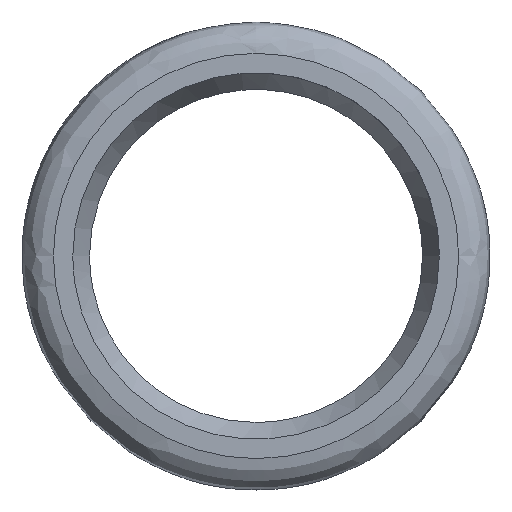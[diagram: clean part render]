
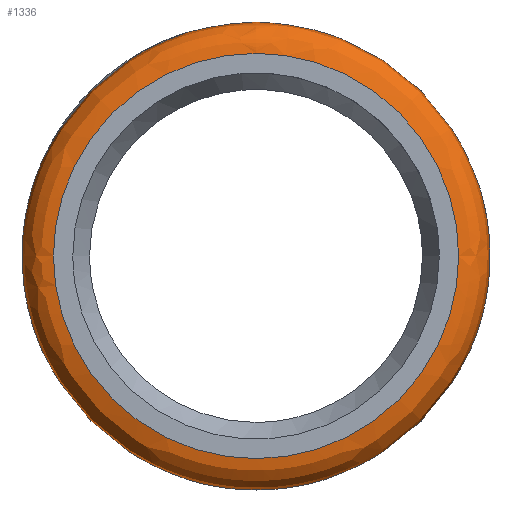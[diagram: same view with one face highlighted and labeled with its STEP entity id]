
A CAD part, left-side view. The second image highlights one B-rep face of the part: STEP entity #1336.
In plain terms, the highlighted free-form (B-spline) face has degree [2, 2] with [5, 9] control points.
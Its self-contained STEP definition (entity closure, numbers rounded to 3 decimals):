
#1290 = EDGE_CURVE('',#1291,#1293,#1295,.T.);
#1291 = VERTEX_POINT('',#1292);
#1292 = CARTESIAN_POINT('',(0.,19.35,0.));
#1293 = VERTEX_POINT('',#1294);
#1294 = CARTESIAN_POINT('',(0.,0.,19.35));
#1295 = ( BOUNDED_CURVE() B_SPLINE_CURVE(2,(#1296,#1297,#1298),
.UNSPECIFIED.,.F.,.F.) B_SPLINE_CURVE_WITH_KNOTS((3,3),(0.,
1.571),.PIECEWISE_BEZIER_KNOTS.) CURVE() 
GEOMETRIC_REPRESENTATION_ITEM() RATIONAL_B_SPLINE_CURVE((1.,
0.707,1.)) REPRESENTATION_ITEM('') );
#1296 = CARTESIAN_POINT('',(0.,19.35,0.));
#1297 = CARTESIAN_POINT('',(0.,19.35,19.35));
#1298 = CARTESIAN_POINT('',(0.,0.,19.35));
#1300 = EDGE_CURVE('',#1293,#1291,#1301,.T.);
#1301 = ( BOUNDED_CURVE() B_SPLINE_CURVE(2,(#1302,#1303,#1304,#1305,
#1306,#1307,#1308),.UNSPECIFIED.,.F.,.F.) B_SPLINE_CURVE_WITH_KNOTS((3,2
    ,2,3),(1.571,3.142,4.712,6.283),
.UNSPECIFIED.) CURVE() GEOMETRIC_REPRESENTATION_ITEM() 
RATIONAL_B_SPLINE_CURVE((1.,0.707,1.,0.707,1.,
0.707,1.)) REPRESENTATION_ITEM('') );
#1302 = CARTESIAN_POINT('',(0.,0.,19.35));
#1303 = CARTESIAN_POINT('',(0.,-19.35,19.35));
#1304 = CARTESIAN_POINT('',(0.,-19.35,0.));
#1305 = CARTESIAN_POINT('',(0.,-19.35,-19.35));
#1306 = CARTESIAN_POINT('',(0.,0.,-19.35));
#1307 = CARTESIAN_POINT('',(0.,19.35,-19.35));
#1308 = CARTESIAN_POINT('',(0.,19.35,0.));
#1336 = ADVANCED_FACE('',(#1337),#1376,.T.);
#1337 = FACE_BOUND('',#1338,.T.);
#1338 = EDGE_LOOP('',(#1339,#1349,#1359,#1365,#1373,#1374,#1375));
#1339 = ORIENTED_EDGE('',*,*,#1340,.F.);
#1340 = EDGE_CURVE('',#1341,#1343,#1345,.T.);
#1341 = VERTEX_POINT('',#1342);
#1342 = CARTESIAN_POINT('',(5.121,21.471,0.));
#1343 = VERTEX_POINT('',#1344);
#1344 = CARTESIAN_POINT('',(5.121,0.,21.471));
#1345 = ( BOUNDED_CURVE() B_SPLINE_CURVE(2,(#1346,#1347,#1348),
.UNSPECIFIED.,.F.,.F.) B_SPLINE_CURVE_WITH_KNOTS((3,3),(0.,
1.571),.PIECEWISE_BEZIER_KNOTS.) CURVE() 
GEOMETRIC_REPRESENTATION_ITEM() RATIONAL_B_SPLINE_CURVE((1.,
0.707,1.)) REPRESENTATION_ITEM('') );
#1346 = CARTESIAN_POINT('',(5.121,21.471,0.));
#1347 = CARTESIAN_POINT('',(5.121,21.471,21.471)
  );
#1348 = CARTESIAN_POINT('',(5.121,0.,
    21.471));
#1349 = ORIENTED_EDGE('',*,*,#1350,.F.);
#1350 = EDGE_CURVE('',#1351,#1341,#1353,.T.);
#1351 = VERTEX_POINT('',#1352);
#1352 = CARTESIAN_POINT('',(5.121,-21.471,0.));
#1353 = ( BOUNDED_CURVE() B_SPLINE_CURVE(2,(#1354,#1355,#1356,#1357,
#1358),.UNSPECIFIED.,.F.,.F.) B_SPLINE_CURVE_WITH_KNOTS((3,2,3),(
    3.142,4.712,6.283),
.PIECEWISE_BEZIER_KNOTS.) CURVE() GEOMETRIC_REPRESENTATION_ITEM() 
RATIONAL_B_SPLINE_CURVE((1.,0.707,1.,0.707,1.)) 
REPRESENTATION_ITEM('') );
#1354 = CARTESIAN_POINT('',(5.121,-21.471,
    0.));
#1355 = CARTESIAN_POINT('',(5.121,-21.471,
    -21.471));
#1356 = CARTESIAN_POINT('',(5.121,0.,
    -21.471));
#1357 = CARTESIAN_POINT('',(5.121,21.471,-21.471
    ));
#1358 = CARTESIAN_POINT('',(5.121,21.471,
    0.));
#1359 = ORIENTED_EDGE('',*,*,#1360,.F.);
#1360 = EDGE_CURVE('',#1343,#1351,#1361,.T.);
#1361 = ( BOUNDED_CURVE() B_SPLINE_CURVE(2,(#1362,#1363,#1364),
.UNSPECIFIED.,.F.,.F.) B_SPLINE_CURVE_WITH_KNOTS((3,3),(1.571,
3.142),.PIECEWISE_BEZIER_KNOTS.) CURVE() 
GEOMETRIC_REPRESENTATION_ITEM() RATIONAL_B_SPLINE_CURVE((1.,
0.707,1.)) REPRESENTATION_ITEM('') );
#1362 = CARTESIAN_POINT('',(5.121,0.,
    21.471));
#1363 = CARTESIAN_POINT('',(5.121,-21.471,21.471
    ));
#1364 = CARTESIAN_POINT('',(5.121,-21.471,
    0.));
#1365 = ORIENTED_EDGE('',*,*,#1366,.T.);
#1366 = EDGE_CURVE('',#1343,#1293,#1367,.T.);
#1367 = ( BOUNDED_CURVE() B_SPLINE_CURVE(2,(#1368,#1369,#1370,#1371,
#1372),.UNSPECIFIED.,.F.,.F.) B_SPLINE_CURVE_WITH_KNOTS((3,2,3),(
-0.785,0.393,1.571),.UNSPECIFIED.) CURVE() 
GEOMETRIC_REPRESENTATION_ITEM() RATIONAL_B_SPLINE_CURVE((1.,
0.831,1.,0.831,1.)) REPRESENTATION_ITEM('') );
#1368 = CARTESIAN_POINT('',(5.121,0.,21.471));
#1369 = CARTESIAN_POINT('',(3.704,0.,22.889));
#1370 = CARTESIAN_POINT('',(1.852,0.,22.122));
#1371 = CARTESIAN_POINT('',(0.,0.,21.355));
#1372 = CARTESIAN_POINT('',(0.,0.,19.35));
#1373 = ORIENTED_EDGE('',*,*,#1300,.T.);
#1374 = ORIENTED_EDGE('',*,*,#1290,.T.);
#1375 = ORIENTED_EDGE('',*,*,#1366,.F.);
#1376 = ( BOUNDED_SURFACE() B_SPLINE_SURFACE(2,2,(
    (#1377,#1378,#1379,#1380,#1381,#1382,#1383,#1384,#1385)
    ,(#1386,#1387,#1388,#1389,#1390,#1391,#1392,#1393,#1394)
    ,(#1395,#1396,#1397,#1398,#1399,#1400,#1401,#1402,#1403)
    ,(#1404,#1405,#1406,#1407,#1408,#1409,#1410,#1411,#1412)
    ,(#1413,#1414,#1415,#1416,#1417,#1418,#1419,#1420,#1421
)),.UNSPECIFIED.,.F.,.T.,.F.) B_SPLINE_SURFACE_WITH_KNOTS((3,2,3),(1,2,2
    ,2,2,2,1),(-1.571,-0.393,0.785),(
    -4.712,-3.142,-1.571,0.,1.571,
    3.142,4.712),.UNSPECIFIED.) 
GEOMETRIC_REPRESENTATION_ITEM() RATIONAL_B_SPLINE_SURFACE((
    (1.,0.707,1.,0.707,1.,0.707,1.
      ,0.707,1.)
    ,(0.831,0.588,0.831,0.588
      ,0.831,0.588,0.831,0.588
      ,0.831)
    ,(1.,0.707,1.,0.707,1.,0.707,1.
      ,0.707,1.)
    ,(0.831,0.588,0.831,0.588
      ,0.831,0.588,0.831,0.588
      ,0.831)
    ,(1.,0.707,1.,0.707,1.,0.707,1.
,0.707,1.))) REPRESENTATION_ITEM('') SURFACE() );
#1377 = CARTESIAN_POINT('',(5.121,0.,21.471));
#1378 = CARTESIAN_POINT('',(5.121,-21.471,21.471
    ));
#1379 = CARTESIAN_POINT('',(5.121,-21.471,0.));
#1380 = CARTESIAN_POINT('',(5.121,-21.471,
    -21.471));
#1381 = CARTESIAN_POINT('',(5.121,0.,-21.471));
#1382 = CARTESIAN_POINT('',(5.121,21.471,-21.471
    ));
#1383 = CARTESIAN_POINT('',(5.121,21.471,0.));
#1384 = CARTESIAN_POINT('',(5.121,21.471,21.471)
  );
#1385 = CARTESIAN_POINT('',(5.121,0.,21.471));
#1386 = CARTESIAN_POINT('',(3.704,0.,22.889));
#1387 = CARTESIAN_POINT('',(3.704,-22.889,
    22.889));
#1388 = CARTESIAN_POINT('',(3.704,-22.889,0.));
#1389 = CARTESIAN_POINT('',(3.704,-22.889,
    -22.889));
#1390 = CARTESIAN_POINT('',(3.704,0.,-22.889));
#1391 = CARTESIAN_POINT('',(3.704,22.889,
    -22.889));
#1392 = CARTESIAN_POINT('',(3.704,22.889,0.));
#1393 = CARTESIAN_POINT('',(3.704,22.889,22.889
    ));
#1394 = CARTESIAN_POINT('',(3.704,0.,22.889));
#1395 = CARTESIAN_POINT('',(1.852,0.,22.122));
#1396 = CARTESIAN_POINT('',(1.852,-22.122,
    22.122));
#1397 = CARTESIAN_POINT('',(1.852,-22.122,0.));
#1398 = CARTESIAN_POINT('',(1.852,-22.122,
    -22.122));
#1399 = CARTESIAN_POINT('',(1.852,0.,-22.122));
#1400 = CARTESIAN_POINT('',(1.852,22.122,
    -22.122));
#1401 = CARTESIAN_POINT('',(1.852,22.122,0.));
#1402 = CARTESIAN_POINT('',(1.852,22.122,
    22.122));
#1403 = CARTESIAN_POINT('',(1.852,0.,22.122));
#1404 = CARTESIAN_POINT('',(0.,0.,21.355));
#1405 = CARTESIAN_POINT('',(0.,-21.355,
    21.355));
#1406 = CARTESIAN_POINT('',(0.,-21.355,0.));
#1407 = CARTESIAN_POINT('',(0.,-21.355,
    -21.355));
#1408 = CARTESIAN_POINT('',(0.,0.,-21.355));
#1409 = CARTESIAN_POINT('',(0.,21.355,
    -21.355));
#1410 = CARTESIAN_POINT('',(0.,21.355,0.));
#1411 = CARTESIAN_POINT('',(0.,21.355,
    21.355));
#1412 = CARTESIAN_POINT('',(0.,0.,21.355));
#1413 = CARTESIAN_POINT('',(0.,0.,19.35));
#1414 = CARTESIAN_POINT('',(0.,-19.35,19.35));
#1415 = CARTESIAN_POINT('',(0.,-19.35,0.));
#1416 = CARTESIAN_POINT('',(0.,-19.35,-19.35));
#1417 = CARTESIAN_POINT('',(0.,0.,-19.35));
#1418 = CARTESIAN_POINT('',(0.,19.35,-19.35));
#1419 = CARTESIAN_POINT('',(0.,19.35,0.));
#1420 = CARTESIAN_POINT('',(0.,19.35,19.35));
#1421 = CARTESIAN_POINT('',(0.,0.,19.35));
